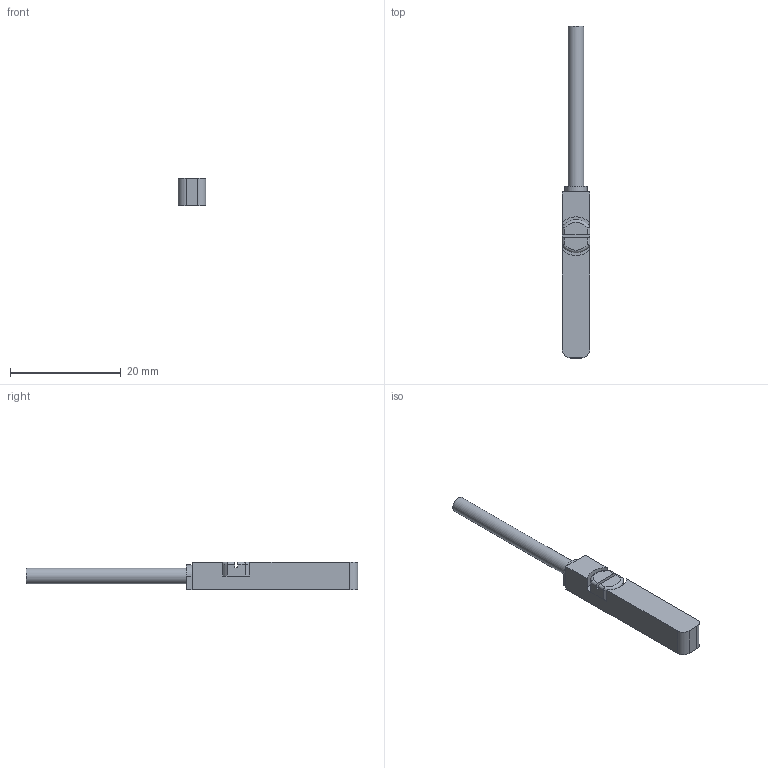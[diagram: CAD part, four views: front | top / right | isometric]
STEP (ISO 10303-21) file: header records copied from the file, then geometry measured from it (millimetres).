
FILE_DESCRIPTION(('FreeCAD Model'),'2;1');
FILE_NAME('Open CASCADE Shape Model','2025-09-16T14:49:05',(''),(''), 'Open CASCADE STEP processor 7.6','FreeCAD','Unknown');
FILE_SCHEMA(('AUTOMOTIVE_DESIGN { 1 0 10303 214 1 1 1 1 }'));
Length unit declared in the file: millimetre
Products named in the file (3): Unnamed; ZYT-07; Anschluß
Assembly tree (2 placements, depth 2):
  Unnamed
    ZYT-07
    Anschluß
Bounding box: 5 x 60 x 5 mm (x, y, z)
Volume: 928.5 mm3; surface area: 987.5 mm2
Topology: 2 solids, 2 shells, 40 faces, 90 edges, 54 vertices
Faces by surface type: plane 22, cylinder 12, bspline 4, torus 2
Full cylindrical faces by diameter (mm): 2.8 x1
Entity records: 1490 total; most frequent: CARTESIAN_POINT 547, DIRECTION 182, ORIENTED_EDGE 180, EDGE_CURVE 90, AXIS2_PLACEMENT_3D 61, LINE 60, VECTOR 60, VERTEX_POINT 54
